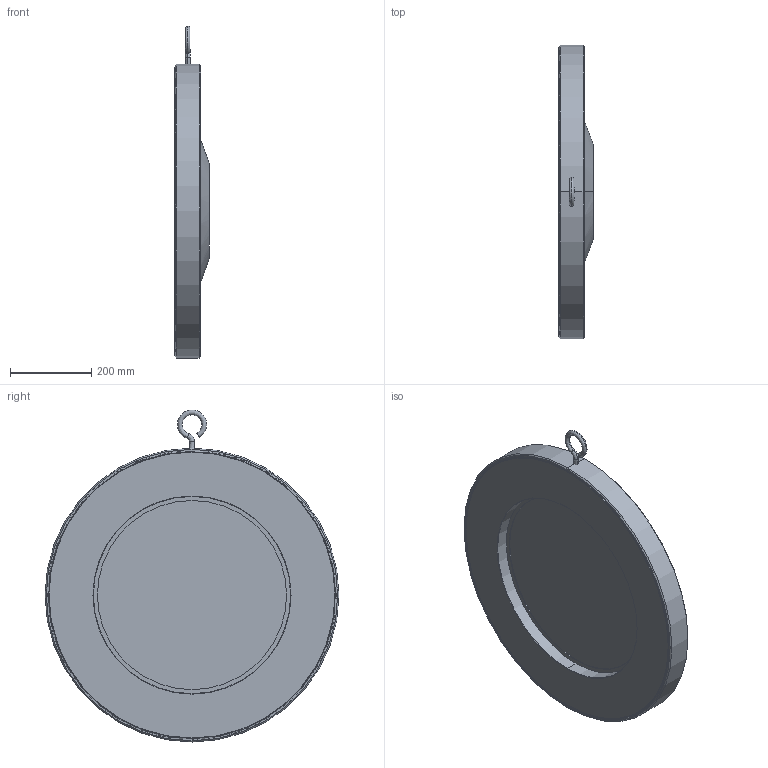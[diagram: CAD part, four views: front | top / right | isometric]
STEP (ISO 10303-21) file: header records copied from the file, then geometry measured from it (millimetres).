
FILE_DESCRIPTION (( 'STEP AP203' ), '1' );
FILE_NAME ('0.STEP', '2017-04-04T01:32:29', ( 'User' ), ( 'shendu' ), 'SwSTEP 2.0', 'SolidWorks 2015', '' );
FILE_SCHEMA (( 'CONFIG_CONTROL_DESIGN' ));
Length unit declared in the file: millimetre
Products named in the file (1): 0
Bounding box: 85.5 x 724 x 818 mm (x, y, z)
Volume: 18836077 mm3; surface area: 1225325.5 mm2
Topology: 11 solids, 11 shells, 182 faces, 461 edges, 277 vertices
Faces by surface type: plane 71, bspline 41, cylinder 40, cone 30
Entity records: 14828 total; most frequent: CARTESIAN_POINT 10683, ORIENTED_EDGE 868, DIRECTION 816, EDGE_CURVE 434, AXIS2_PLACEMENT_3D 310, VERTEX_POINT 277, EDGE_LOOP 197, VECTOR 196
